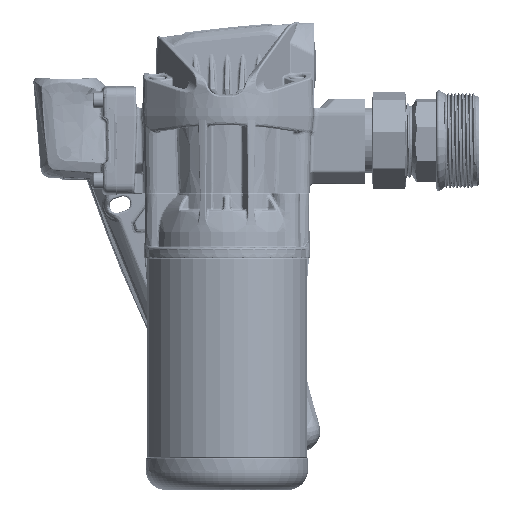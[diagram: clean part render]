
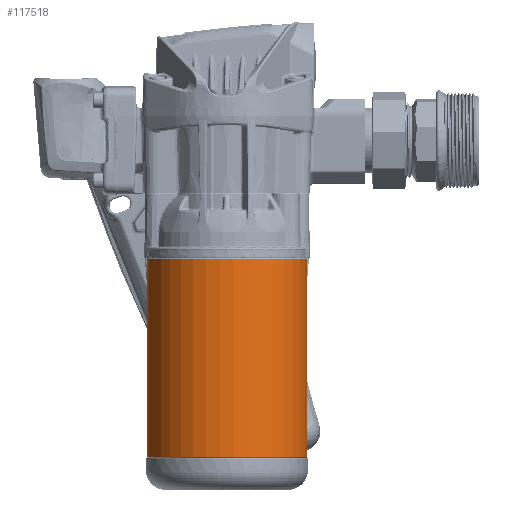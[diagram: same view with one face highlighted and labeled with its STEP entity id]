
A CAD part, left-side view. The second image highlights one B-rep face of the part: STEP entity #117518.
In plain terms, the highlighted cylindrical face has radius 50.8 mm (diameter 101.6 mm), a full revolution.
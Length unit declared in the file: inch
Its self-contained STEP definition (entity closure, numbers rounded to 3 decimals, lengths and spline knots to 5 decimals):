
#3536=ELLIPSE('',#125054,5.84761,2.);
#3537=ELLIPSE('',#125062,5.84761,2.);
#15770=LINE('',#244953,#22101);
#15773=LINE('',#244959,#22104);
#15779=LINE('',#244983,#22110);
#22101=VECTOR('',#143237,0.3937);
#22104=VECTOR('',#143242,0.3937);
#22110=VECTOR('',#143272,2.);
#24000=CYLINDRICAL_SURFACE('',#125068,2.);
#24786=FACE_BOUND('',#35916,.T.);
#28809=FACE_OUTER_BOUND('',#35915,.T.);
#35915=EDGE_LOOP('',(#91150,#91151,#91152,#91153,#91154,#91155));
#35916=EDGE_LOOP('',(#91156,#91157,#91158,#91159,#91160,#91161,#91162));
#40688=CIRCLE('',#125052,2.);
#40689=CIRCLE('',#125056,2.);
#40690=CIRCLE('',#125060,2.);
#40691=CIRCLE('',#125065,2.);
#40692=CIRCLE('',#125066,2.);
#40694=CIRCLE('',#125069,2.);
#40695=CIRCLE('',#125070,2.);
#49517=VERTEX_POINT('',#244928);
#49518=VERTEX_POINT('',#244929);
#49521=VERTEX_POINT('',#244937);
#49523=VERTEX_POINT('',#244943);
#49524=VERTEX_POINT('',#244944);
#49527=VERTEX_POINT('',#244952);
#49529=VERTEX_POINT('',#244958);
#49531=VERTEX_POINT('',#244971);
#49532=VERTEX_POINT('',#244972);
#49534=VERTEX_POINT('',#244979);
#49535=VERTEX_POINT('',#244980);
#63826=EDGE_CURVE('',#49517,#49518,#40688,.T.);
#63830=EDGE_CURVE('',#49518,#49521,#3536,.T.);
#63833=EDGE_CURVE('',#49523,#49524,#40689,.T.);
#63837=EDGE_CURVE('',#49524,#49527,#15770,.T.);
#63840=EDGE_CURVE('',#49529,#49517,#15773,.T.);
#63843=EDGE_CURVE('',#49527,#49529,#40690,.T.);
#63845=EDGE_CURVE('',#49521,#49523,#3537,.T.);
#63847=EDGE_CURVE('',#49531,#49532,#40691,.T.);
#63848=EDGE_CURVE('',#49532,#49531,#40692,.T.);
#63851=EDGE_CURVE('',#49534,#49535,#40694,.T.);
#63852=EDGE_CURVE('',#49535,#49534,#40695,.T.);
#63853=EDGE_CURVE('',#49535,#49532,#15779,.T.);
#91150=ORIENTED_EDGE('',*,*,#63851,.F.);
#91151=ORIENTED_EDGE('',*,*,#63852,.F.);
#91152=ORIENTED_EDGE('',*,*,#63853,.T.);
#91153=ORIENTED_EDGE('',*,*,#63847,.F.);
#91154=ORIENTED_EDGE('',*,*,#63848,.F.);
#91155=ORIENTED_EDGE('',*,*,#63853,.F.);
#91156=ORIENTED_EDGE('',*,*,#63843,.T.);
#91157=ORIENTED_EDGE('',*,*,#63840,.T.);
#91158=ORIENTED_EDGE('',*,*,#63826,.T.);
#91159=ORIENTED_EDGE('',*,*,#63830,.T.);
#91160=ORIENTED_EDGE('',*,*,#63845,.T.);
#91161=ORIENTED_EDGE('',*,*,#63833,.T.);
#91162=ORIENTED_EDGE('',*,*,#63837,.T.);
#117518=ADVANCED_FACE('',(#28809,#24786),#24000,.T.);
#125052=AXIS2_PLACEMENT_3D('',#244930,#143217,#143218);
#125054=AXIS2_PLACEMENT_3D('',#244938,#143224,#143225);
#125056=AXIS2_PLACEMENT_3D('',#244945,#143230,#143231);
#125060=AXIS2_PLACEMENT_3D('',#244964,#143247,#143248);
#125062=AXIS2_PLACEMENT_3D('',#244967,#143252,#143253);
#125065=AXIS2_PLACEMENT_3D('',#244973,#143259,#143260);
#125066=AXIS2_PLACEMENT_3D('',#244974,#143261,#143262);
#125068=AXIS2_PLACEMENT_3D('',#244978,#143266,#143267);
#125069=AXIS2_PLACEMENT_3D('',#244981,#143268,#143269);
#125070=AXIS2_PLACEMENT_3D('',#244982,#143270,#143271);
#143217=DIRECTION('center_axis',(0.,0.,
-1.));
#143218=DIRECTION('ref_axis',(0.423,0.906,0.));
#143224=DIRECTION('center_axis',(0.852,-0.397,0.342));
#143225=DIRECTION('ref_axis',(0.31,-0.145,-0.94));
#143230=DIRECTION('center_axis',(0.,0.,
-1.));
#143231=DIRECTION('ref_axis',(0.423,0.906,0.));
#143237=DIRECTION('',(0.,0.,-1.));
#143242=DIRECTION('',(0.,0.,1.));
#143247=DIRECTION('center_axis',(0.,0.,
-1.));
#143248=DIRECTION('ref_axis',(0.423,0.906,0.));
#143252=DIRECTION('center_axis',(-0.852,0.397,0.342));
#143253=DIRECTION('ref_axis',(0.31,-0.145,0.94));
#143259=DIRECTION('center_axis',(0.,0.,
1.));
#143260=DIRECTION('ref_axis',(-0.423,-0.906,0.));
#143261=DIRECTION('center_axis',(0.,0.,
1.));
#143262=DIRECTION('ref_axis',(-0.423,-0.906,0.));
#143266=DIRECTION('center_axis',(0.,0.,
-1.));
#143267=DIRECTION('ref_axis',(0.423,0.906,0.));
#143268=DIRECTION('center_axis',(0.,0.,
-1.));
#143269=DIRECTION('ref_axis',(-0.423,-0.906,0.));
#143270=DIRECTION('center_axis',(0.,0.,
-1.));
#143271=DIRECTION('ref_axis',(-0.423,-0.906,0.));
#143272=DIRECTION('',(0.,0.,1.));
#244928=CARTESIAN_POINT('',(0.85881,1.80623,-1.81252));
#244929=CARTESIAN_POINT('',(0.88222,1.79491,-1.81252));
#244930=CARTESIAN_POINT('Origin',(0.,0.,
-1.81252));
#244937=CARTESIAN_POINT('',(0.84524,1.81262,-1.69988));
#244938=CARTESIAN_POINT('Origin',(0.,0.,
-1.69988));
#244943=CARTESIAN_POINT('',(0.8079,1.82956,-1.81252));
#244944=CARTESIAN_POINT('',(0.83162,1.8189,-1.81252));
#244945=CARTESIAN_POINT('Origin',(0.,0.,
-1.81252));
#244952=CARTESIAN_POINT('',(0.83162,1.8189,-6.47188));
#244953=CARTESIAN_POINT('',(0.83162,1.8189,-4.08588));
#244958=CARTESIAN_POINT('',(0.85881,1.80623,-6.47188));
#244959=CARTESIAN_POINT('',(0.85881,1.80623,-4.08588));
#244964=CARTESIAN_POINT('Origin',(0.,0.,
-6.47188));
#244967=CARTESIAN_POINT('Origin',(0.,0.,
-1.69988));
#244971=CARTESIAN_POINT('',(0.84524,1.81262,-1.62988));
#244972=CARTESIAN_POINT('',(-0.84524,-1.81262,-1.62988));
#244973=CARTESIAN_POINT('Origin',(0.,0.,
-1.62988));
#244974=CARTESIAN_POINT('Origin',(0.,0.,
-1.62988));
#244978=CARTESIAN_POINT('Origin',(0.,0.,
-4.08588));
#244979=CARTESIAN_POINT('',(0.84524,1.81262,-6.54188));
#244980=CARTESIAN_POINT('',(-0.84524,-1.81262,-6.54188));
#244981=CARTESIAN_POINT('Origin',(0.,0.,
-6.54188));
#244982=CARTESIAN_POINT('Origin',(0.,0.,
-6.54188));
#244983=CARTESIAN_POINT('',(-0.84524,-1.81262,-4.08588));
